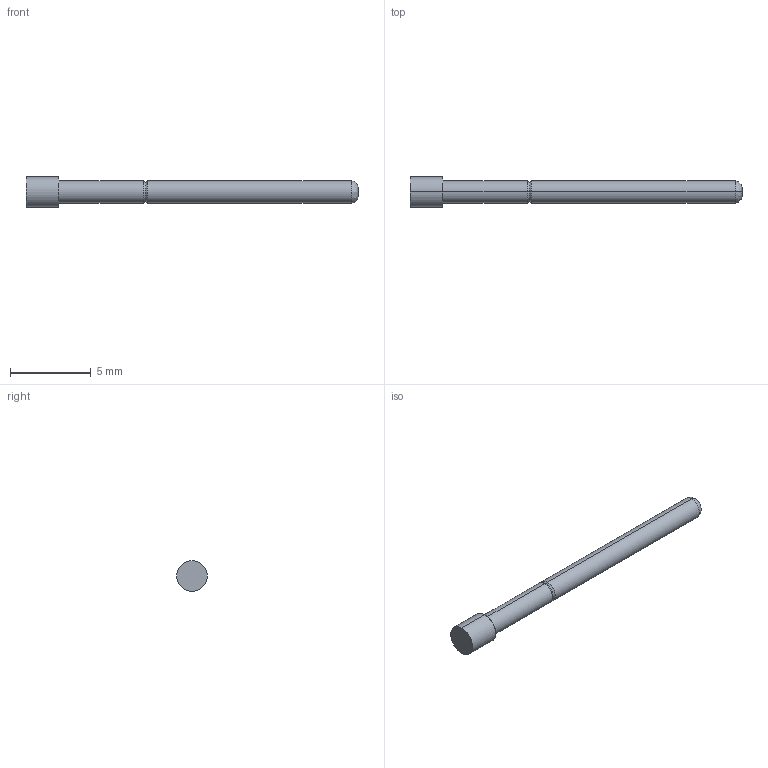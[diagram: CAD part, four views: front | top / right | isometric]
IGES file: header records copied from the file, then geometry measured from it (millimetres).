
Start section: SolidWorks IGES file using analytic representation for surfaces
Global section: file name: Z:\probe solid model mockups\Solidworks models\IGES Files\EPA-2\EPA-2F Full.IGS; native system: SolidWorks 2006 by SolidWorks Corporation; preprocessor: SolidWorks 2006 by SolidWorks Corporation; author: tsakatani; date: 071220.161820; units: inch
Bounding box: 20.57 x 1.91 x 1.91 mm (x, y, z)
Surface area: 97 mm2 (no closed solid volume)
Topology: 0 solids, 0 shells, 15 faces, 144 edges, 144 vertices
Faces by surface type: bspline 9, revolution 6
